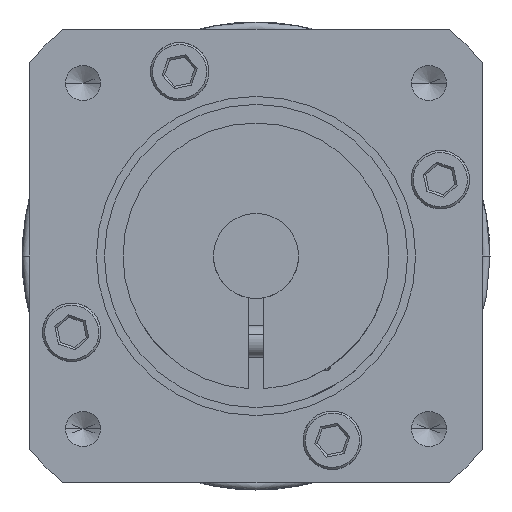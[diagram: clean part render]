
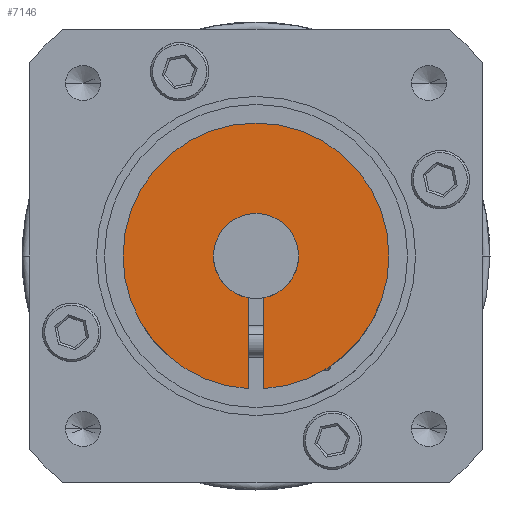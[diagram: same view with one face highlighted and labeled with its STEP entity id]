
A CAD part, front view. The second image highlights one B-rep face of the part: STEP entity #7146.
In plain terms, the highlighted planar face has unit normal (0, -1, 0).
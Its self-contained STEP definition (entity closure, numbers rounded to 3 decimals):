
#3484 = VERTEX_POINT ( 'NONE', #9954 ) ;
#3893 = VERTEX_POINT ( 'NONE', #10856 ) ;
#3926 = EDGE_CURVE ( 'NONE', #3484, #3893, #11006, .T. ) ;
#3953 = VERTEX_POINT ( 'NONE', #11068 ) ;
#4380 = VERTEX_POINT ( 'NONE', #12035 ) ;
#4391 = EDGE_CURVE ( 'NONE', #4482, #4433, #12103, .T. ) ;
#4398 = EDGE_CURVE ( 'NONE', #4433, #4380, #12138, .T. ) ;
#4414 = EDGE_CURVE ( 'NONE', #3953, #4457, #12054, .T. ) ;
#4433 = VERTEX_POINT ( 'NONE', #11818 ) ;
#4457 = VERTEX_POINT ( 'NONE', #11808 ) ;
#4482 = VERTEX_POINT ( 'NONE', #11760 ) ;
#4735 = EDGE_CURVE ( 'NONE', #4380, #4767, #5721, .T. ) ;
#4767 = VERTEX_POINT ( 'NONE', #5304 ) ;
#5304 = CARTESIAN_POINT ( 'NONE',  ( -12.477, 0., 0.75 ) ) ;
#5350 = CARTESIAN_POINT ( 'NONE',  ( -3.244, 0., -0.75 ) ) ;
#5351 = LINE ( 'NONE', #5350, #5427 ) ;
#5362 = DIRECTION ( 'NONE',  ( 1., 0., 0. ) ) ;
#5427 = VECTOR ( 'NONE', #5362, 1000. ) ;
#5445 = DIRECTION ( 'NONE',  ( 0., -1., 0. ) ) ;
#5446 = CARTESIAN_POINT ( 'NONE',  ( 0., 0., 0. ) ) ;
#5473 = AXIS2_PLACEMENT_3D ( 'NONE', #5446, #5445, #5614 ) ;
#5475 = FACE_OUTER_BOUND ( 'NONE', #7211, .T. ) ;
#5500 = PLANE ( 'NONE',  #5473 ) ;
#5614 = DIRECTION ( 'NONE',  ( 0., 0., -1. ) ) ;
#5651 = CARTESIAN_POINT ( 'NONE',  ( 0., 0., 0. ) ) ;
#5657 = CIRCLE ( 'NONE', #5673, 4. ) ;
#5668 = DIRECTION ( 'NONE',  ( -1., 0., 0. ) ) ;
#5669 = VECTOR ( 'NONE', #5668, 1000. ) ;
#5670 = CARTESIAN_POINT ( 'NONE',  ( -3.244, 0., 0.75 ) ) ;
#5673 = AXIS2_PLACEMENT_3D ( 'NONE', #5651, #5677, #5676 ) ;
#5675 = LINE ( 'NONE', #5670, #5669 ) ;
#5676 = DIRECTION ( 'NONE',  ( 0., 0., -1. ) ) ;
#5677 = DIRECTION ( 'NONE',  ( 0., -1., 0. ) ) ;
#5721 = CIRCLE ( 'NONE', #5738, 12.5 ) ;
#5738 = AXIS2_PLACEMENT_3D ( 'NONE', #5740, #5750, #5799 ) ;
#5740 = CARTESIAN_POINT ( 'NONE',  ( 0., 0., 0. ) ) ;
#5750 = DIRECTION ( 'NONE',  ( 0., -1., 0. ) ) ;
#5799 = DIRECTION ( 'NONE',  ( 0., 0., -1. ) ) ;
#6490 = ORIENTED_EDGE ( 'NONE', *, *, #7233, .F. ) ;
#6492 = ORIENTED_EDGE ( 'NONE', *, *, #4391, .T. ) ;
#7141 = ORIENTED_EDGE ( 'NONE', *, *, #4414, .F. ) ;
#7146 = ADVANCED_FACE ( 'NONE', ( #5475 ), #5500, .T. ) ;
#7204 = ORIENTED_EDGE ( 'NONE', *, *, #7238, .F. ) ;
#7210 = EDGE_CURVE ( 'NONE', #4457, #3484, #5657, .T. ) ;
#7211 = EDGE_LOOP ( 'NONE', ( #7204, #6492, #7224, #7212, #6490, #7227, #7215, #7141 ) ) ;
#7212 = ORIENTED_EDGE ( 'NONE', *, *, #4735, .T. ) ;
#7215 = ORIENTED_EDGE ( 'NONE', *, *, #7210, .F. ) ;
#7224 = ORIENTED_EDGE ( 'NONE', *, *, #4398, .T. ) ;
#7227 = ORIENTED_EDGE ( 'NONE', *, *, #3926, .F. ) ;
#7233 = EDGE_CURVE ( 'NONE', #3893, #4767, #5675, .T. ) ;
#7238 = EDGE_CURVE ( 'NONE', #4482, #3953, #5351, .T. ) ;
#9954 = CARTESIAN_POINT ( 'NONE',  ( 0., 0., 4. ) ) ;
#10856 = CARTESIAN_POINT ( 'NONE',  ( -3.929, 0., 0.75 ) ) ;
#10996 = DIRECTION ( 'NONE',  ( 0., 0., -1. ) ) ;
#11006 = CIRCLE ( 'NONE', #11086, 4. ) ;
#11068 = CARTESIAN_POINT ( 'NONE',  ( -3.929, 0., -0.75 ) ) ;
#11077 = DIRECTION ( 'NONE',  ( 0., -1., 0. ) ) ;
#11082 = CARTESIAN_POINT ( 'NONE',  ( 0., 0., 0. ) ) ;
#11086 = AXIS2_PLACEMENT_3D ( 'NONE', #11082, #11077, #10996 ) ;
#11760 = CARTESIAN_POINT ( 'NONE',  ( -12.477, 0., -0.75 ) ) ;
#11808 = CARTESIAN_POINT ( 'NONE',  ( 0., 0., -4. ) ) ;
#11818 = CARTESIAN_POINT ( 'NONE',  ( 0., 0., -12.5 ) ) ;
#12020 = CARTESIAN_POINT ( 'NONE',  ( 0., 0., 0. ) ) ;
#12022 = DIRECTION ( 'NONE',  ( 0., -1., 0. ) ) ;
#12035 = CARTESIAN_POINT ( 'NONE',  ( 0., 0., 12.5 ) ) ;
#12053 = DIRECTION ( 'NONE',  ( 0., 0., -1. ) ) ;
#12054 = CIRCLE ( 'NONE', #12080, 4. ) ;
#12080 = AXIS2_PLACEMENT_3D ( 'NONE', #12020, #12022, #12053 ) ;
#12092 = CARTESIAN_POINT ( 'NONE',  ( 0., 0., 0. ) ) ;
#12095 = DIRECTION ( 'NONE',  ( 0., 0., -1. ) ) ;
#12096 = DIRECTION ( 'NONE',  ( 0., -1., 0. ) ) ;
#12103 = CIRCLE ( 'NONE', #12118, 12.5 ) ;
#12108 = DIRECTION ( 'NONE',  ( 0., 0., -1. ) ) ;
#12117 = CARTESIAN_POINT ( 'NONE',  ( 0., 0., 0. ) ) ;
#12118 = AXIS2_PLACEMENT_3D ( 'NONE', #12117, #12096, #12095 ) ;
#12126 = DIRECTION ( 'NONE',  ( 0., -1., 0. ) ) ;
#12130 = AXIS2_PLACEMENT_3D ( 'NONE', #12092, #12126, #12108 ) ;
#12138 = CIRCLE ( 'NONE', #12130, 12.5 ) ;
